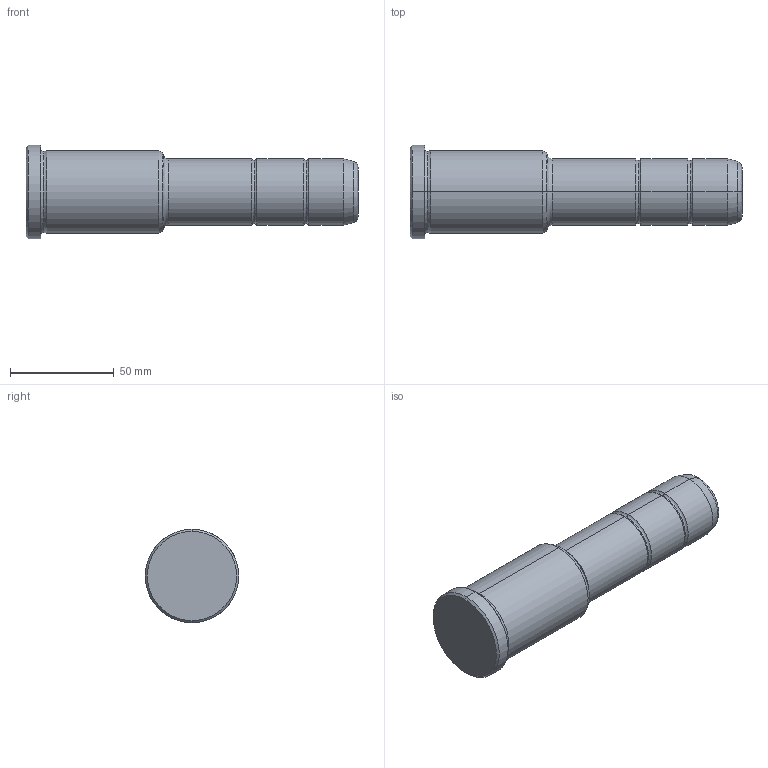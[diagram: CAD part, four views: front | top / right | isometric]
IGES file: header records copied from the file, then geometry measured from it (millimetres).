
Start section: START RECORD GO HERE.
Global section: file name: 351-32X66X160.igs; native system: DASSAULT SYSTEMES CATIA V5 R20 - www.3ds.com; preprocessor: CATIA Version 5 Release 20 ; author: Utente; organization: NB04-ASUS; date: 20210907.142950; units: millimetre
Bounding box: 160 x 45 x 45 mm (x, y, z)
Surface area: 20605.2 mm2 (no closed solid volume)
Topology: 0 solids, 0 shells, 36 faces, 204 edges, 204 vertices
Faces by surface type: revolution 32, plane 4
